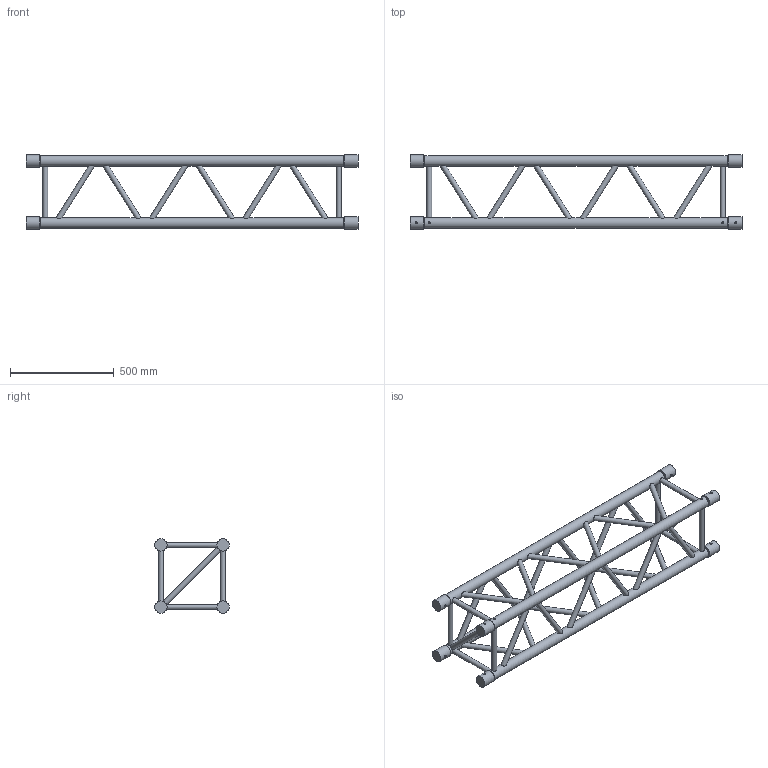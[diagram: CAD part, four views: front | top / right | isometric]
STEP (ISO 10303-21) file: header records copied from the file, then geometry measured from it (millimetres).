
FILE_DESCRIPTION(/* description */ (''),/* implementation_level */ '2;1');
FILE_NAME(/* name */ 'C:\Users\adrian.toca\Desktop\111110066.stp',/* time_stamp */ '2016-09-09T12:53:43+03:00',/* author */ ('adrian.toca'),/* organization */ (''),/* preprocessor_version */ 'ST-DEVELOPER v15.6',/* originating_system */ 'Autodesk Inventor 2015',/* authorisation */ '');
FILE_SCHEMA (('AUTOMOTIVE_DESIGN { 1 0 10303 214 3 1 1 }'));
Length unit declared in the file: millimetre
Products named in the file (1): 260030877
Bounding box: 1600 x 357.8 x 357.8 mm (x, y, z)
Volume: 17745058 mm3; surface area: 1820461.2 mm2
Topology: 1 solids, 1 shells, 166 faces, 418 edges, 260 vertices
Faces by surface type: cylinder 86, plane 72, cone 8
Full cylindrical faces by diameter (mm): 10 x8, 25 x34, 50 x4, 58.8 x8
Entity records: 7864 total; most frequent: CARTESIAN_POINT 4031, DIRECTION 678, ORIENTED_EDGE 672, EDGE_LOOP 336, AXIS2_PLACEMENT_3D 319, EDGE_CURVE 312, VERTEX_POINT 232, FACE_BOUND 170
